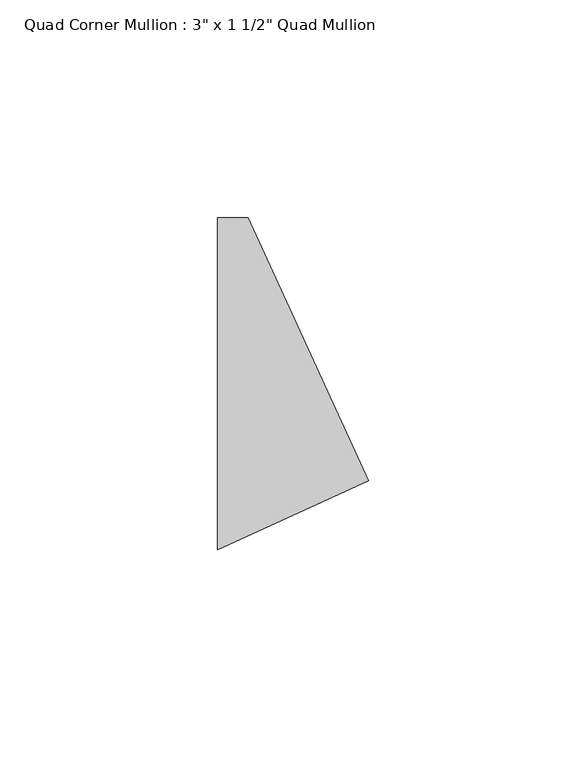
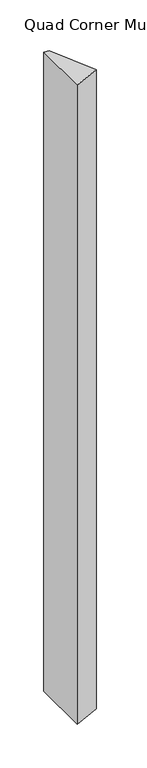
"""IFC4 building model written with IfcOpenShell, lengths in millimetres: member geometry."""

from ifc_helpers import new_model, si_unit, frame, origin, place, context, project, spatial, polyline, outline, extrude, source, transform, mapped, element, save


def member_d7cafd72(model_context):
    return source(origin(), model_context, "Body", "SweptSolid", [
        extrude(outline(polyline([(31.130744, -22.2448055), (-3.5134879, -38.1), (-3.5134879, 38.1), (3.5134879, 38.1), (31.130744, -22.2448055)])), frame((0.0, 0.0, -891.8863639), z_axis=(0.0, 0.0, 1.0), x_axis=(1.0, 0.0, 0.0)), (0.0, 0.0, 1.0), 891.8863639),
    ])


if __name__ == "__main__":
    model = new_model("IFC4")
    model_context = context("Model", 3, world=origin())
    ifc_project = project(units=[si_unit("LENGTHUNIT", "METRE", prefix="MILLI")], contexts=[model_context])
    site = spatial("IfcSite", under=ifc_project)
    building = spatial("IfcBuilding", under=site)
    placement = place(None, origin())
    member_shape = member_d7cafd72(model_context)
    element("IfcMember", 1, ObjectType="Quad Corner Mullion : 3\" x 1 1/2\" Quad Mullion", at=placement, inside=building, context=model_context, shape_type="MappedRepresentation", body=[
        mapped(member_shape, transform((0.0, 0.0, 0.0), x_axis=(1.0, 0.0, 0.0), y_axis=(0.0, 1.0, 0.0), z_axis=(0.0, 0.0, 1.0))),
    ])
    save(model, "model.ifc")
